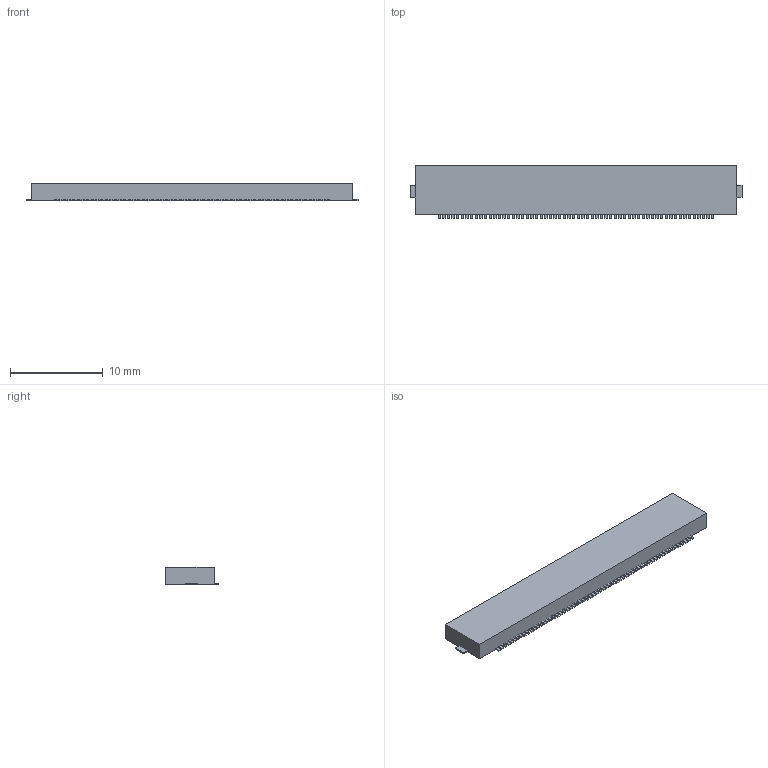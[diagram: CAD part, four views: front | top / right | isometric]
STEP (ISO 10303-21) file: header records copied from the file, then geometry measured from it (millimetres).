
FILE_DESCRIPTION(('FreeCAD Model'),'2;1');
FILE_NAME('Open CASCADE Shape Model','2026-10-22T15:59:01',('FreeCAD'),( 'FreeCAD'),'Open CASCADE STEP processor 7.9','FreeCAD','Unknown');
FILE_SCHEMA(('AUTOMOTIVE_DESIGN { 1 0 10303 214 1 1 1 1 }'));
Length unit declared in the file: millimetre
Products named in the file (1): Open CASCADE STEP translator 7.9 1
Bounding box: 35.8 x 5.7 x 1.9 mm (x, y, z)
Volume: 305.6 mm3; surface area: 809.3 mm2
Topology: 63 solids, 63 shells, 383 faces, 768 edges, 512 vertices
Faces by surface type: plane 383
Entity records: 9608 total; most frequent: CARTESIAN_POINT 1664, DIRECTION 1536, ORIENTED_EDGE 1536, EDGE_CURVE 768, LINE 768, VECTOR 768, VERTEX_POINT 512, AXIS2_PLACEMENT_3D 384
